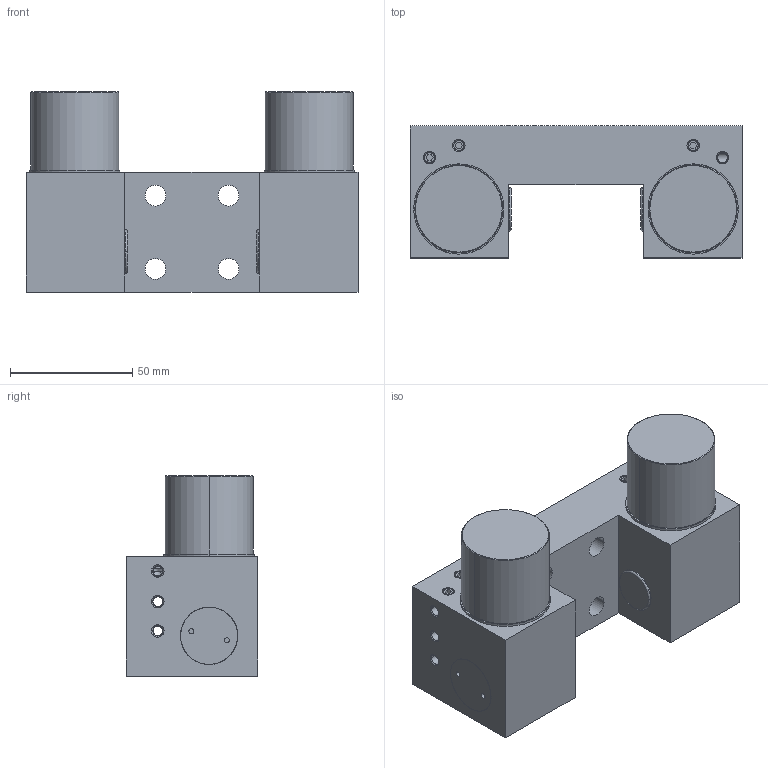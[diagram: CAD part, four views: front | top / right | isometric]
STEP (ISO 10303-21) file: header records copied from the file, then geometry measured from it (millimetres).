
FILE_DESCRIPTION((''),'2;1');
FILE_NAME('FRC55T01_SEM-DEM_SW0001','2013-08-30T',('Anacleto'),(''),'PRO/ENGINEER BY PARAMETRIC TECHNOLOGY CORPORATION, 2010020','PRO/ENGINEER BY PARAMETRIC TECHNOLOGY CORPORATION, 2010020','');
FILE_SCHEMA(('CONFIG_CONTROL_DESIGN'));
Length unit declared in the file: millimetre
Products named in the file (1): FRC55T01_SEM-DEM_SW0001
Bounding box: 136 x 54 x 82 mm (x, y, z)
Volume: 234304.8 mm3; surface area: 68905.8 mm2
Topology: 6 solids, 6 shells, 373 faces, 856 edges, 520 vertices
Faces by surface type: cylinder 160, plane 107, cone 90, torus 16
Entity records: 12104 total; most frequent: CARTESIAN_POINT 3513, DIRECTION 1868, ORIENTED_EDGE 1704, EDGE_CURVE 852, AXIS2_PLACEMENT_3D 743, VERTEX_POINT 520, EDGE_LOOP 434, VECTOR 382
